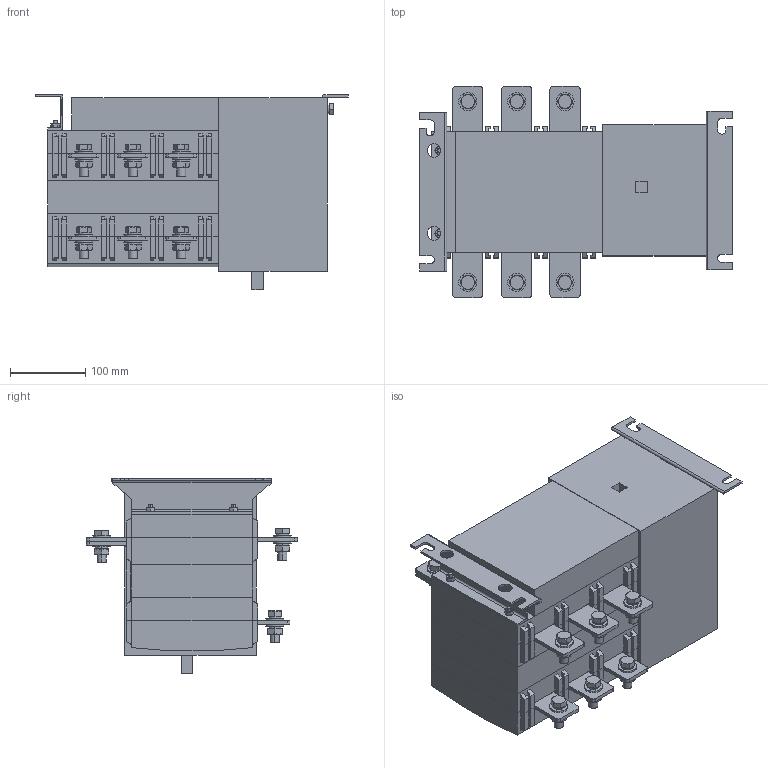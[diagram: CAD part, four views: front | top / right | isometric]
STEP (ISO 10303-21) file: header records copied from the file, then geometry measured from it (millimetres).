
FILE_DESCRIPTION((''),'2;1');
FILE_NAME('NH40-630-3SZ_ASM','2021-03-25T',('wangpeng'),(''),'PRO/ENGINEER BY PARAMETRIC TECHNOLOGY CORPORATION, 2009460','PRO/ENGINEER BY PARAMETRIC TECHNOLOGY CORPORATION, 2009460','');
FILE_SCHEMA(('AUTOMOTIVE_DESIGN { 1 0 10303 214 1 1 1 1 }'));
Length unit declared in the file: millimetre
Products named in the file (21): ZJBNH40-630-3SZ; SBNH40-630-3SZ; XBNH40-630-3SZ; SGNH40-630-3SZ; AZBNH40-630-3SZ; CTNH40-630-3SZ; DBNH40-630-3SZ; GNH40-630-3SZ; FZBNH40-630-3SZ; LJBNH40-630-3SZ; YAZBNH40-630-3SZ; LSM6; LMM6; PDQ8; TDQ8; 0LS8; PDQ12; TDQ12; LSM12; LMM12; NH40-630-3SZ_ASM
Assembly tree (74 placements, depth 2):
  NH40-630-3SZ_ASM
    ZJBNH40-630-3SZ
    SBNH40-630-3SZ
    XBNH40-630-3SZ  x2
    SGNH40-630-3SZ
    AZBNH40-630-3SZ
    CTNH40-630-3SZ  x3
    DBNH40-630-3SZ
    GNH40-630-3SZ
    FZBNH40-630-3SZ
    LJBNH40-630-3SZ  x3
    YAZBNH40-630-3SZ
    LSM6  x2
    LMM6  x2
    PDQ8
    TDQ8
    0LS8
    PDQ12  x18
    TDQ12  x15
    LSM12  x9
    LMM12  x9
Bounding box: 415 x 280 x 260 mm (x, y, z)
Volume: 14053381.6 mm3; surface area: 1138555.6 mm2
Topology: 74 solids, 74 shells, 1394 faces, 3507 edges, 2275 vertices
Faces by surface type: plane 899, cylinder 285, cone 202, bspline 6, torus 2
Entity records: 23385 total; most frequent: CARTESIAN_POINT 5737, ORIENTED_EDGE 3386, DIRECTION 3192, EDGE_CURVE 1693, VECTOR 1372, LINE 1372, VERTEX_POINT 1121, AXIS2_PLACEMENT_3D 910
